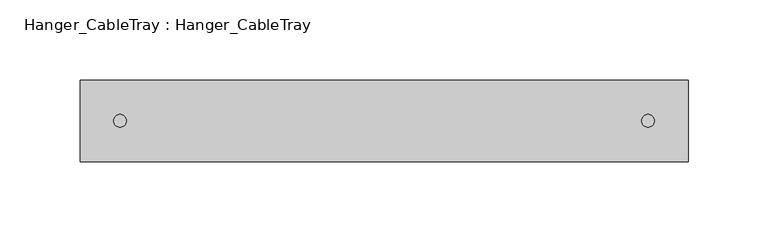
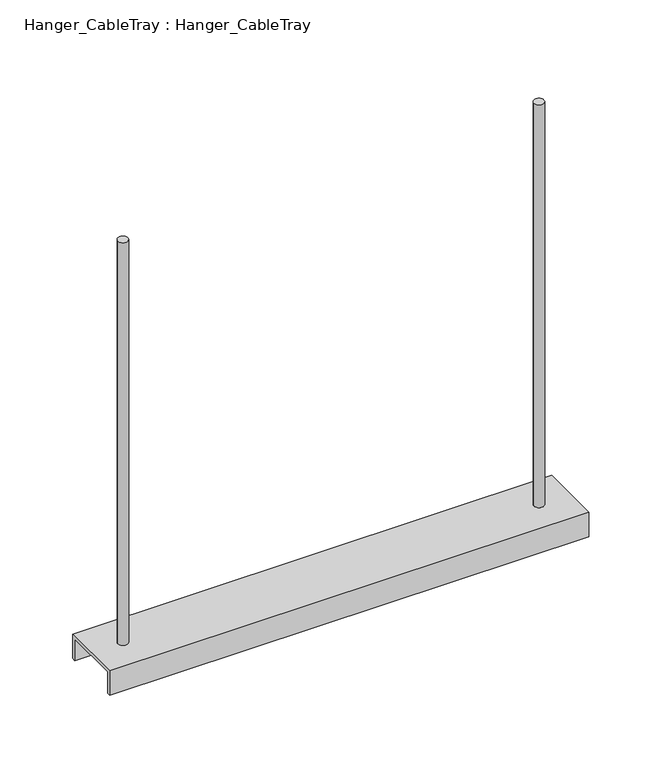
"""IFC4 building model written with IfcOpenShell, lengths in millimetres: cable carrier fitting geometry, Hanger_CableTray : Hanger_CableTray."""

from ifc_helpers import new_model, si_unit, frame, origin, place, context, project, spatial, circle_curve, source, transform, mapped, element, save
from ifc_brep_helpers import plane_surface, cylinder_surface, advanced_brep


def hanger_cabletray_hanger_cabletray_1b30f011(model_context):
    return source(origin(), model_context, "Body", "AdvancedBrep", [
        advanced_brep(
        [(-333.96875, 0.0, 25.0), (-326.03125, 0.0, 25.0), (-333.96875, 0.0, 383.0), (-326.03125, 0.0, 383.0), (-333.96875, 0.0, 45.3398437), (-326.03125, 0.0, 45.3398437), (-326.03125, 0.0, 42.7601562), (-333.96875, 0.0, 42.7601562), (25.0, -25.5, 45.3398437), (25.0, -25.5, 25.0), (25.0, -22.5, 25.0), (25.0, -22.5, 42.7601562), (25.0, 22.5, 42.7601562), (25.0, 22.5, 25.0), (25.0, 25.5, 25.0), (25.0, 25.5, 45.3398437), (-355.0, -25.5, 45.3398437), (-355.0, 25.5, 45.3398437), (-355.0, 25.5, 25.0), (-355.0, 22.5, 25.0), (-355.0, 22.5, 42.7601562), (-355.0, -22.5, 42.7601562), (-355.0, -22.5, 25.0), (-355.0, -25.5, 25.0), (3.96875, 0.0, 45.3398437), (-3.96875, 0.0, 45.3398437), (-3.96875, 0.0, 25.0), (3.96875, 0.0, 25.0), (-3.96875, 0.0, 383.0), (3.96875, 0.0, 383.0), (3.96875, 0.0, 42.7601562), (-3.96875, 0.0, 42.7601562)],
        [
            (0, 1, circle_curve(frame((-330.0, 0.0, 25.0), z_axis=(0.0, 0.0, -1.0), x_axis=(1.0, 0.0, 0.0)), 3.96875)),
            (1, 0, circle_curve(frame((-330.0, 0.0, 25.0), z_axis=(0.0, 0.0, -1.0), x_axis=(1.0, 0.0, 0.0)), 3.96875)),
            (2, 3, circle_curve(frame((-330.0, 0.0, 383.0), z_axis=(0.0, 0.0, 1.0), x_axis=(1.0, 0.0, 0.0)), 3.96875)),
            (3, 2, circle_curve(frame((-330.0, 0.0, 383.0), z_axis=(0.0, 0.0, 1.0), x_axis=(1.0, 0.0, 0.0)), 3.96875)),
            (2, 4),
            (4, 5, circle_curve(frame((-330.0, 0.0, 45.3398437), z_axis=(0.0, 0.0, 1.0), x_axis=(1.0, 0.0, 0.0)), 3.96875)),
            (5, 3),
            (1, 6),
            (6, 7, circle_curve(frame((-330.0, 0.0, 42.7601562), z_axis=(0.0, 0.0, -1.0), x_axis=(1.0, 0.0, 0.0)), 3.96875)),
            (7, 0),
            (5, 4, circle_curve(frame((-330.0, 0.0, 45.3398437), z_axis=(0.0, 0.0, 1.0), x_axis=(1.0, 0.0, 0.0)), 3.96875)),
            (7, 6, circle_curve(frame((-330.0, 0.0, 42.7601562), z_axis=(0.0, 0.0, -1.0), x_axis=(1.0, 0.0, 0.0)), 3.96875)),
            (8, 9),
            (9, 10),
            (10, 11),
            (11, 12),
            (12, 13),
            (13, 14),
            (14, 15),
            (15, 8),
            (16, 17),
            (17, 18),
            (18, 19),
            (19, 20),
            (20, 21),
            (21, 22),
            (22, 23),
            (23, 16),
            (8, 16),
            (23, 9),
            (13, 19),
            (18, 14),
            (17, 15),
            (24, 25, circle_curve(frame((0.0, 0.0, 45.3398437), z_axis=(0.0, 0.0, -1.0), x_axis=(1.0, 0.0, 0.0)), 3.96875)),
            (25, 24, circle_curve(frame((0.0, 0.0, 45.3398437), z_axis=(0.0, 0.0, -1.0), x_axis=(1.0, 0.0, 0.0)), 3.96875)),
            (26, 27, circle_curve(frame((0.0, 0.0, 25.0), z_axis=(0.0, 0.0, -1.0), x_axis=(1.0, 0.0, 0.0)), 3.96875)),
            (27, 26, circle_curve(frame((0.0, 0.0, 25.0), z_axis=(0.0, 0.0, -1.0), x_axis=(1.0, 0.0, 0.0)), 3.96875)),
            (28, 29, circle_curve(frame((0.0, 0.0, 383.0), z_axis=(0.0, 0.0, 1.0), x_axis=(1.0, 0.0, 0.0)), 3.96875)),
            (29, 28, circle_curve(frame((0.0, 0.0, 383.0), z_axis=(0.0, 0.0, 1.0), x_axis=(1.0, 0.0, 0.0)), 3.96875)),
            (28, 25),
            (24, 29),
            (27, 30),
            (30, 31, circle_curve(frame((0.0, 0.0, 42.7601562), z_axis=(0.0, 0.0, -1.0), x_axis=(1.0, 0.0, 0.0)), 3.96875)),
            (31, 26),
            (31, 30, circle_curve(frame((0.0, 0.0, 42.7601562), z_axis=(0.0, 0.0, -1.0), x_axis=(1.0, 0.0, 0.0)), 3.96875)),
            (22, 10),
            (21, 11),
            (20, 12),
        ],
        [
            plane_surface(frame((-326.03125, 0.0, 25.0), z_axis=(0.0, 0.0, -1.0), x_axis=(0.0, -1.0, 0.0))),
            plane_surface(frame((-326.03125, 0.0, 383.0), z_axis=(0.0, 0.0, 1.0), x_axis=(0.0, 1.0, 0.0))),
            cylinder_surface(frame((-330.0, 0.0, 25.0), z_axis=(0.0, 0.0, 1.0), x_axis=(1.0, 0.0, 0.0)), 3.96875),
            plane_surface(frame((25.0, -25.5, 45.3398437), z_axis=(1.0, 0.0, 0.0), x_axis=(0.0, 0.0, -1.0))),
            plane_surface(frame((-355.0, -25.5, 45.3398437), z_axis=(-1.0, 0.0, 0.0), x_axis=(0.0, 0.0, 1.0))),
            plane_surface(frame((25.0, -25.5, 45.3398437), z_axis=(0.0, -1.0, 0.0), x_axis=(-1.0, 0.0, 0.0))),
            plane_surface(frame((25.0, 22.5, 25.0), z_axis=(0.0, 0.0, -1.0), x_axis=(-1.0, 0.0, 0.0))),
            plane_surface(frame((25.0, 25.5, 25.0), z_axis=(0.0, 1.0, 0.0), x_axis=(-1.0, 0.0, 0.0))),
            plane_surface(frame((25.0, 25.5, 45.3398437), z_axis=(0.0, 0.0, 1.0), x_axis=(-1.0, 0.0, 0.0))),
            plane_surface(frame((3.96875, 0.0, 25.0), z_axis=(0.0, 0.0, -1.0), x_axis=(0.0, -1.0, 0.0))),
            plane_surface(frame((3.96875, 0.0, 383.0), z_axis=(0.0, 0.0, 1.0), x_axis=(0.0, 1.0, 0.0))),
            cylinder_surface(frame((0.0, 0.0, 25.0), z_axis=(0.0, 0.0, 1.0), x_axis=(1.0, 0.0, 0.0)), 3.96875),
            plane_surface(frame((25.0, -25.5, 25.0), z_axis=(0.0, 0.0, -1.0), x_axis=(-1.0, 0.0, 0.0))),
            plane_surface(frame((25.0, -22.5, 25.0), z_axis=(0.0, 1.0, 0.0), x_axis=(-1.0, 0.0, 0.0))),
            plane_surface(frame((25.0, -22.5, 42.7601562), z_axis=(0.0, 0.0, -1.0), x_axis=(-1.0, 0.0, 0.0))),
            plane_surface(frame((25.0, 22.5, 42.7601562), z_axis=(0.0, -1.0, 0.0), x_axis=(-1.0, 0.0, 0.0))),
        ],
        [
            (0, [[1, 2]]),
            (1, [[3, 4]]),
            (2, [[-3, 5, 6, 7]]),
            (2, [[-2, 8, 9, 10]]),
            (2, [[-4, -7, 11, -5]]),
            (2, [[-1, -10, 12, -8]]),
            (3, [[13, 14, 15, 16, 17, 18, 19, 20]]),
            (4, [[21, 22, 23, 24, 25, 26, 27, 28]]),
            (5, [[-13, 29, -28, 30]]),
            (6, [[-18, 31, -23, 32]]),
            (7, [[-19, -32, -22, 33]]),
            (8, [[-20, -33, -21, -29], [-6, -11], [34, 35]]),
            (9, [[36, 37]]),
            (10, [[38, 39]]),
            (11, [[-38, 40, -34, 41]]),
            (11, [[-37, 42, 43, 44]]),
            (11, [[-39, -41, -35, -40]]),
            (11, [[-36, -44, 45, -42]]),
            (12, [[-14, -30, -27, 46]]),
            (13, [[-15, -46, -26, 47]]),
            (14, [[-16, -47, -25, 48], [-9, -12], [-43, -45]]),
            (15, [[-17, -48, -24, -31]]),
        ],
    ),
    ])


if __name__ == "__main__":
    model = new_model("IFC4")
    model_context = context("Model", 3, world=origin())
    ifc_project = project(units=[si_unit("LENGTHUNIT", "METRE", prefix="MILLI")], contexts=[model_context])
    site = spatial("IfcSite", under=ifc_project)
    building = spatial("IfcBuilding", under=site)
    placement = place(None, origin())
    hanger_cabletray_hanger_cabletray_shape = hanger_cabletray_hanger_cabletray_1b30f011(model_context)
    element("IfcCableCarrierFitting", 1, ObjectType="Hanger_CableTray : Hanger_CableTray", at=placement, inside=building, context=model_context, shape_type="MappedRepresentation", body=[
        mapped(hanger_cabletray_hanger_cabletray_shape, transform((0.0, 0.0, 0.0), x_axis=(1.0, 0.0, 0.0), y_axis=(0.0, 1.0, 0.0), z_axis=(0.0, 0.0, 1.0))),
    ])
    save(model, "model.ifc")
